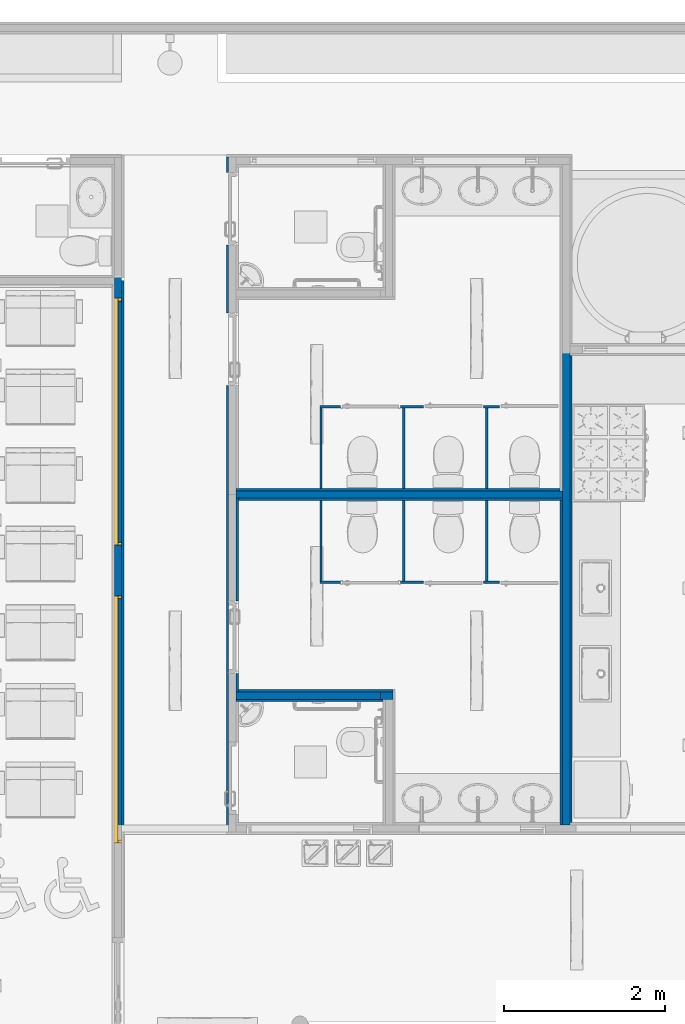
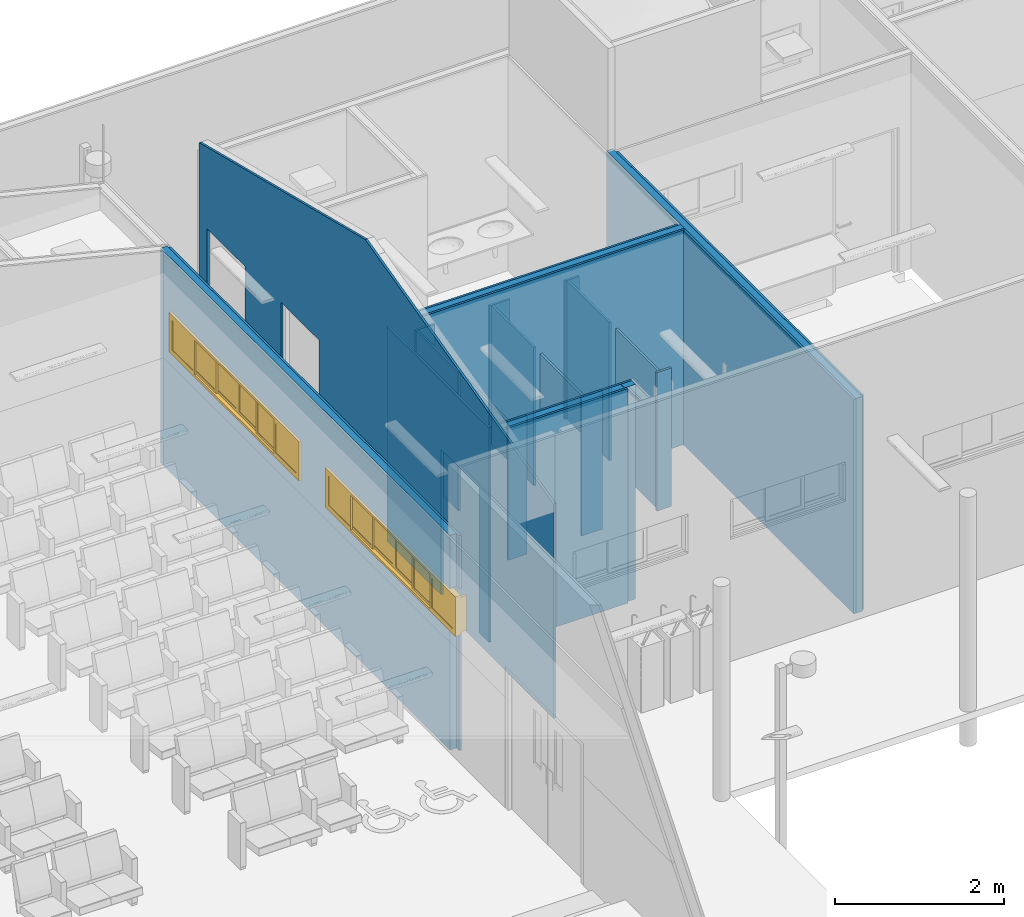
# One storey, part 30 of 155: 26 walls, 2 windows, 7 openings.
"""IFC2X3 building model written with IfcOpenShell, lengths in metres."""

from ifc_helpers import new_model, entity, si_unit, converted_unit, derived_unit, direction, frame, frame_2d, origin, origin_2d_with_axis, place, context, subcontext, project, spatial, polyline, rectangle, outline, extrude, clip, bounded_halfspace, source, transform, mapped, material, material_list, layer, layer_set, layer_usage, type_object, type_shapes, element, fill, save


model = new_model("IFC2X3")

# Units and contexts
model_context = context("Model", 3, precision=1e-05, world=origin(), true_north=direction((6.12303176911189e-17, 1.0)))
body_context = subcontext(model_context, "Body", "Model", "MODEL_VIEW")
ifc_project = project(units=[si_unit("LENGTHUNIT", "METRE"), si_unit("AREAUNIT", "SQUARE_METRE"), si_unit("VOLUMEUNIT", "CUBIC_METRE"), converted_unit("PLANEANGLEUNIT", "DEGREE", entity("IfcRatioMeasure", 0.0174532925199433), si_unit("PLANEANGLEUNIT", "RADIAN"), dimensions=[0, 0, 0, 0, 0, 0, 0]), si_unit("MASSUNIT", "GRAM", prefix="KILO"), derived_unit("MASSDENSITYUNIT", [(si_unit("MASSUNIT", "GRAM", prefix="KILO"), 1), (si_unit("LENGTHUNIT", "METRE"), -3)]), si_unit("TIMEUNIT", "SECOND"), si_unit("FREQUENCYUNIT", "HERTZ"), si_unit("THERMODYNAMICTEMPERATUREUNIT", "DEGREE_CELSIUS"), derived_unit("THERMALTRANSMITTANCEUNIT", [(si_unit("MASSUNIT", "GRAM", prefix="KILO"), 1), (si_unit("THERMODYNAMICTEMPERATUREUNIT", "KELVIN"), -1), (si_unit("TIMEUNIT", "SECOND"), -3)]), derived_unit("VOLUMETRICFLOWRATEUNIT", [(si_unit("LENGTHUNIT", "METRE"), 3), (si_unit("TIMEUNIT", "SECOND"), -1)]), si_unit("ELECTRICCURRENTUNIT", "AMPERE"), si_unit("ELECTRICVOLTAGEUNIT", "VOLT"), si_unit("POWERUNIT", "WATT"), si_unit("FORCEUNIT", "NEWTON", prefix="KILO"), si_unit("ILLUMINANCEUNIT", "LUX"), si_unit("LUMINOUSFLUXUNIT", "LUMEN"), si_unit("LUMINOUSINTENSITYUNIT", "CANDELA"), derived_unit("USERDEFINED", [(si_unit("MASSUNIT", "GRAM", prefix="KILO"), -1), (si_unit("LENGTHUNIT", "METRE"), -2), (si_unit("TIMEUNIT", "SECOND"), 3), (si_unit("LUMINOUSFLUXUNIT", "LUMEN"), 1)]), derived_unit("LINEARVELOCITYUNIT", [(si_unit("LENGTHUNIT", "METRE"), 1), (si_unit("TIMEUNIT", "SECOND"), -1)]), si_unit("PRESSUREUNIT", "PASCAL"), derived_unit("USERDEFINED", [(si_unit("LENGTHUNIT", "METRE"), -2), (si_unit("MASSUNIT", "GRAM", prefix="KILO"), 1), (si_unit("TIMEUNIT", "SECOND"), -2)])], contexts=[model_context])

# Site, building, storey
site_placement = place(None, frame((26.9889013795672, -17.5624287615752, 0.0)))
site = spatial("IfcSite", under=ifc_project, at=site_placement, Name="Default", CompositionType="ELEMENT")
building_placement = place(site_placement, origin())
building = spatial("IfcBuilding", under=site, at=building_placement, Name="C. C. L. Monsenhor Antônio Sampaio", CompositionType="ELEMENT")
storey_placement = place(building_placement, frame((0.0, 0.0, 1.19999999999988)))
storey = spatial("IfcBuildingStorey", under=building, at=storey_placement, Name="Nível 1.2", CompositionType="ELEMENT", Elevation=1.19999999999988)

# Walls
ifc_material_1 = material(Name="ALVENARIA")
ifc_layer_1 = layer(ifc_material_1, 0.09)
ifc_layer_set_1 = layer_set([ifc_layer_1], Name="Parede básica:ENucleo parede 15cm")
ifc_layer_usage_1 = layer_usage(ifc_layer_set_1, "AXIS2", "NEGATIVE", 0.045)
wall_type_1 = type_object("IfcWallType", Name="Parede básica:ENucleo parede 15cm", PredefinedType="STANDARD", material=ifc_layer_set_1)
wall_1_placement = place(storey_placement, frame((-0.390552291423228, -12.6780663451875, 0.0), z_axis=(0.0, 0.0, 1.0), x_axis=(-1.0, 0.0, 0.0)))
element("IfcWallStandardCase", 1, at=wall_1_placement, inside=storey, type_object=wall_type_1, material=ifc_layer_usage_1, Name="Parede básica:ENucleo parede 15cm", ObjectType="Parede básica:ENucleo parede 15cm", context=body_context, shape_type="SweptSolid", body=[
    extrude(rectangle(XDim=4.06000000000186, YDim=0.0900000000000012, at=frame_2d((2.03000000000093, 0.0), x_axis=(-1.0, 0.0))), origin(), (0.0, 0.0, 1.0), 3.10000000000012),
])
ifc_layer_usage_2 = layer_usage(ifc_layer_set_1, "AXIS2", "POSITIVE", -0.045)
wall_2_placement = place(storey_placement, frame((-4.45055229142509, -15.1780663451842, 0.0)))
element("IfcWallStandardCase", 2, at=wall_2_placement, inside=storey, type_object=wall_type_1, material=ifc_layer_usage_2, Name="Parede básica:ENucleo parede 15cm", ObjectType="Parede básica:ENucleo parede 15cm", context=body_context, shape_type="SweptSolid", body=[
    extrude(rectangle(XDim=1.79999999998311, YDim=0.0900000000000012, at=frame_2d((0.899999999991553, 0.0), x_axis=(-1.0, 0.0))), origin(), (0.0, 0.0, 1.0), 3.10000000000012),
])
ifc_layer_usage_3 = layer_usage(ifc_layer_set_1, "AXIS2", "NEGATIVE", 0.045)
wall_3_placement = place(storey_placement, frame((-2.50054691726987, -15.1780663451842, 0.0), z_axis=(0.0, 0.0, 1.0), x_axis=(-1.0, 0.0, 0.0)))
element("IfcWallStandardCase", 3, at=wall_3_placement, inside=storey, type_object=wall_type_1, material=ifc_layer_usage_3, Name="Parede básica:ENucleo parede 15cm", ObjectType="Parede básica:ENucleo parede 15cm", context=body_context, shape_type="SweptSolid", body=[
    extrude(rectangle(XDim=0.150005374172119, YDim=0.0900000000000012, at=frame_2d((0.0750026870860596, 0.0), x_axis=(-1.0, 0.0))), origin(), (0.0, 0.0, 1.0), 3.10000000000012),
])

# Wall, openings, windows
ifc_layer_usage_4 = layer_usage(ifc_layer_set_1, "AXIS2", "NEGATIVE", 0.045)
wall_4_placement = place(storey_placement, frame((-5.91555229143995, -16.8280663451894, 0.0), z_axis=(0.0, 0.0, 1.0), x_axis=(0.0, 1.0, 0.0)))
wall_4 = element("IfcWallStandardCase", 4, at=wall_4_placement, inside=storey, type_object=wall_type_1, material=ifc_layer_usage_4, Name="Parede básica:ENucleo parede 15cm", ObjectType="Parede básica:ENucleo parede 15cm", context=body_context, shape_type="SweptSolid", body=[
    extrude(rectangle(XDim=6.84500000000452, YDim=0.089999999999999, at=frame_2d((3.42250000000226, 2.42861286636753e-17), x_axis=(-1.0, 0.0))), origin(), (0.0, 0.0, 1.0), 3.10000000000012),
])
opening_1_placement = place(wall_4_placement, frame((6.59000000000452, 0.0449999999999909, 1.76500000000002)))
opening_1 = element("IfcOpeningElement", 5, at=opening_1_placement, cuts=wall_4, Name="Janela 300x110:300 x 50:1", ObjectType="Opening", context=body_context, shape_type="SweptSolid", body=[
    extrude(rectangle(XDim=0.569999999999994, YDim=3.06999999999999, at=frame_2d((0.284999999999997, 1.535), x_axis=(1.0, 0.0))), frame((0.0, 0.0, 0.0), z_axis=(0.0, -1.0, 0.0), x_axis=(0.0, 0.0, 1.0)), (0.0, 0.0, 1.0), 0.09),
])
opening_2_placement = place(wall_4_placement, frame((2.89000000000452, 0.0449999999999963, 1.76500000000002)))
opening_2 = element("IfcOpeningElement", 6, at=opening_2_placement, cuts=wall_4, Name="Janela 300x110:300 x 50:1", ObjectType="Opening", context=body_context, shape_type="SweptSolid", body=[
    extrude(rectangle(XDim=0.569999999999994, YDim=3.06999999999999, at=frame_2d((0.284999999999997, 1.535), x_axis=(1.0, 0.0))), frame((0.0, 0.0, 0.0), z_axis=(0.0, -1.0, 0.0), x_axis=(0.0, 0.0, 1.0)), (0.0, 0.0, 1.0), 0.09),
])
ifc_material_2 = material(Name="VIDRO COMUM LISO VERDE")
ifc_material_3 = material(Name="ALUMÍNIO COM PINTURA ELETROSTÁTICA BRANCA")
ifc_material_list_1 = material_list([ifc_material_2, ifc_material_3])
ifc_material_list_2 = material_list([ifc_material_2, ifc_material_3])
window_style = type_object("IfcWindowStyle", Name="300 x 50", ConstructionType="NOTDEFINED", OperationType="NOTDEFINED", ParameterTakesPrecedence=False, Sizeable=False, material=ifc_material_list_2)
shared_shape = source(origin(), body_context, "Body", "SweptSolid", [
    extrude(rectangle(XDim=0.49, YDim=0.00599999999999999, at=origin_2d_with_axis()), frame((1.255, 0.0324999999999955, 0.0699999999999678), z_axis=(0.0, 0.0, 1.0), x_axis=(-1.0, 0.0, 0.0)), (0.0, 0.0, 1.0), 0.43),
    extrude(outline(polyline([(-0.250000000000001, -0.28), (0.250000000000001, -0.28), (0.250000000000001, 0.28), (-0.250000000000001, 0.28), (-0.250000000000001, -0.28)]), holes=[polyline([(-0.215000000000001, -0.245), (-0.215000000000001, 0.245), (0.215000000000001, 0.245), (0.215000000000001, -0.245), (-0.215000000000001, -0.245)])]), frame((1.255, 0.0199999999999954, 0.284999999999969), z_axis=(0.0, 1.0, 0.0), x_axis=(0.0, 0.0, -1.0)), (0.0, 0.0, 1.0), 0.025),
    extrude(rectangle(XDim=0.49, YDim=0.00599999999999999, at=frame_2d((-1.38777878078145e-16, 0.0), x_axis=(1.0, 0.0))), frame((0.314999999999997, -0.0175, 0.0699999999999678), z_axis=(0.0, 0.0, 1.0), x_axis=(-1.0, 0.0, 0.0)), (0.0, 0.0, 1.0), 0.43),
    extrude(outline(polyline([(-0.250000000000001, -0.28), (0.250000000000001, -0.28), (0.250000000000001, 0.28), (-0.250000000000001, 0.28), (-0.250000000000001, -0.28)]), holes=[polyline([(-0.215000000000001, -0.245), (-0.215000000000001, 0.245), (0.215000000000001, 0.245), (0.215000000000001, -0.245), (-0.215000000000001, -0.245)])]), frame((0.314999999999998, -0.0300000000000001, 0.284999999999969), z_axis=(0.0, 1.0, 0.0), x_axis=(0.0, 0.0, -1.0)), (0.0, 0.0, 1.0), 0.025),
    extrude(rectangle(XDim=0.49, YDim=0.00599999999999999, at=origin_2d_with_axis()), frame((0.784403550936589, 0.00749999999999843, 0.0699999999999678), z_axis=(0.0, 0.0, 1.0), x_axis=(-1.0, 0.0, 0.0)), (0.0, 0.0, 1.0), 0.43),
    extrude(outline(polyline([(-0.250000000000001, -0.28), (0.250000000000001, -0.28), (0.250000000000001, 0.28), (-0.250000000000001, 0.28), (-0.250000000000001, -0.28)]), holes=[polyline([(-0.215000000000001, -0.245), (-0.215000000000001, 0.245), (0.215000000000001, 0.245), (0.215000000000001, -0.245), (-0.215000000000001, -0.245)])]), frame((0.784403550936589, -0.00500000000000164, 0.284999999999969), z_axis=(0.0, 1.0, 0.0), x_axis=(0.0, 0.0, -1.0)), (0.0, 0.0, 1.0), 0.025),
    extrude(rectangle(XDim=0.00599999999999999, YDim=0.49, at=origin_2d_with_axis()), frame((1.81499999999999, 0.0324999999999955, 0.0699999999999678), z_axis=(0.0, 0.0, 1.0), x_axis=(0.0, -1.0, 0.0)), (0.0, 0.0, 1.0), 0.43),
    extrude(outline(polyline([(-0.28, -0.250000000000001), (0.28, -0.250000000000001), (0.28, 0.250000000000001), (-0.28, 0.250000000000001), (-0.28, -0.250000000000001)]), holes=[polyline([(-0.245, -0.215000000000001), (-0.245, 0.215000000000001), (0.245, 0.215000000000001), (0.245, -0.215000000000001), (-0.245, -0.215000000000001)])]), frame((1.81499999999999, 0.0199999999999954, 0.284999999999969), z_axis=(0.0, 1.0, 0.0), x_axis=(1.0, 0.0, 0.0)), (0.0, 0.0, 1.0), 0.025),
    extrude(rectangle(XDim=0.00599999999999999, YDim=0.49, at=frame_2d((0.0, 1.38777878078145e-16), x_axis=(1.0, 0.0))), frame((2.75499999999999, -0.0175, 0.0699999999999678), z_axis=(0.0, 0.0, 1.0), x_axis=(0.0, -1.0, 0.0)), (0.0, 0.0, 1.0), 0.43),
    extrude(outline(polyline([(-0.28, -0.250000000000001), (0.28, -0.250000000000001), (0.28, 0.250000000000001), (-0.28, 0.250000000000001), (-0.28, -0.250000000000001)]), holes=[polyline([(-0.245, -0.215000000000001), (-0.245, 0.215000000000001), (0.245, 0.215000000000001), (0.245, -0.215000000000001), (-0.245, -0.215000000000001)])]), frame((2.75499999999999, -0.0300000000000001, 0.284999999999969), z_axis=(0.0, 1.0, 0.0), x_axis=(1.0, 0.0, 0.0)), (0.0, 0.0, 1.0), 0.025),
    extrude(rectangle(XDim=0.00599999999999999, YDim=0.49, at=origin_2d_with_axis()), frame((2.2855964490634, 0.00749999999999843, 0.0699999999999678), z_axis=(0.0, 0.0, 1.0), x_axis=(0.0, -1.0, 0.0)), (0.0, 0.0, 1.0), 0.43),
    extrude(outline(polyline([(-0.28, -0.250000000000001), (0.28, -0.250000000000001), (0.28, 0.250000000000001), (-0.28, 0.250000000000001), (-0.28, -0.250000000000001)]), holes=[polyline([(-0.245, -0.215000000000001), (-0.245, 0.215000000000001), (0.245, 0.215000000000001), (0.245, -0.215000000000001), (-0.245, -0.215000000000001)])]), frame((2.2855964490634, -0.00500000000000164, 0.284999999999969), z_axis=(0.0, 1.0, 0.0), x_axis=(1.0, 0.0, 0.0)), (0.0, 0.0, 1.0), 0.025),
    extrude(rectangle(XDim=0.075, YDim=3.07, at=origin_2d_with_axis()), frame((1.535, 0.0075, 0.0), z_axis=(0.0, 0.0, 1.0), x_axis=(0.0, -1.0, 0.0)), (0.0, 0.0, 1.0), 0.0349999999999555),
    extrude(rectangle(XDim=0.15, YDim=0.0349999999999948, at=origin_2d_with_axis()), frame((3.05249999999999, 0.045, 0.0349999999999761), z_axis=(0.0, 0.0, 1.0), x_axis=(0.0, -1.0, 0.0)), (0.0, 0.0, 1.0), 0.500000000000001),
    extrude(rectangle(XDim=0.15, YDim=0.0349999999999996, at=origin_2d_with_axis()), frame((0.0174999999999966, 0.045, 0.0349999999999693), z_axis=(0.0, 0.0, 1.0), x_axis=(0.0, -1.0, 0.0)), (0.0, 0.0, 1.0), 0.500000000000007),
    extrude(rectangle(XDim=0.075, YDim=3.06999999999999, at=frame_2d((3.46944695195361e-18, 0.0), x_axis=(1.0, 0.0))), frame((1.535, 0.0075, 0.534999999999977), z_axis=(0.0, 0.0, 1.0), x_axis=(0.0, -1.0, 0.0)), (0.0, 0.0, 1.0), 0.0350000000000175),
])
type_shapes(window_style, [shared_shape])
window_1_placement = place(opening_1_placement, frame((0.0, 0.0, 0.0), z_axis=(0.0, 0.0, 1.0), x_axis=(-1.0, 0.0, 0.0)))
window_1 = element("IfcWindow", 7, at=window_1_placement, inside=storey, type_object=window_style, material=ifc_material_list_1, Name="Janela 300x110:300 x 50", ObjectType="300 x 50", OverallHeight=0.569999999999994, OverallWidth=3.07, context=body_context, shape_type="MappedRepresentation", body=[
    mapped(shared_shape, transform((0.0, 0.0, 0.0), scale=1.0)),
])
fill(opening_1, window_1)
ifc_material_list_3 = material_list([ifc_material_2, ifc_material_3])
window_2_placement = place(opening_2_placement, frame((0.0, 0.0, 0.0), z_axis=(0.0, 0.0, 1.0), x_axis=(-1.0, 0.0, 0.0)))
window_2 = element("IfcWindow", 8, at=window_2_placement, inside=storey, type_object=window_style, material=ifc_material_list_3, Name="Janela 300x110:300 x 50", ObjectType="300 x 50", OverallHeight=0.569999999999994, OverallWidth=3.07, context=body_context, shape_type="MappedRepresentation", body=[
    mapped(shared_shape, transform((0.0, 0.0, 0.0), scale=1.0)),
])
fill(opening_2, window_2)

# Walls
ifc_layer_usage_5 = layer_usage(ifc_layer_set_1, "AXIS2", "NEGATIVE", 0.045)
wall_5_placement = place(storey_placement, frame((-0.345552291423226, -10.8780663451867, 0.0), z_axis=(0.0, 0.0, 1.0), x_axis=(0.0, -1.0, 0.0)))
element("IfcWallStandardCase", 9, at=wall_5_placement, inside=storey, type_object=wall_type_1, material=ifc_layer_usage_5, Name="Parede básica:ENucleo parede 15cm", ObjectType="Parede básica:ENucleo parede 15cm", context=body_context, shape_type="SweptSolid", body=[
    extrude(rectangle(XDim=5.90500000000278, YDim=0.09, at=frame_2d((2.95250000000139, -3.46944695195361e-18), x_axis=(-1.0, 0.0))), origin(), (0.0, 0.0, 1.0), 3.10000000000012),
])
ifc_material_4 = material(Name=".CERÂMICA 10x10 BRANCA")
ifc_layer_2 = layer(ifc_material_4, 0.0035)
ifc_material_5 = material(Name="Argamassa Colante")
ifc_layer_3 = layer(ifc_material_5, 0.02)
ifc_material_6 = material(Name="4")
ifc_layer_4 = layer(ifc_material_6, 0.0015)
ifc_material_7 = material(Name="3")
ifc_layer_5 = layer(ifc_material_7, 0.005)
ifc_layer_set_2 = layer_set([ifc_layer_2, ifc_layer_3, ifc_layer_4, ifc_layer_5], Name="Parede básica:ECeramica branca 10x10cm")
ifc_layer_usage_6 = layer_usage(ifc_layer_set_2, "AXIS2", "POSITIVE", -0.015)
wall_type_2 = type_object("IfcWallType", Name="Parede básica:ECeramica branca 10x10cm", PredefinedType="STANDARD", material=ifc_layer_set_2)
wall_6_placement = place(storey_placement, frame((-0.420552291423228, -12.6180663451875, 0.0), z_axis=(0.0, 0.0, 1.0), x_axis=(-1.0, 0.0, 0.0)))
element("IfcWallStandardCase", 10, at=wall_6_placement, inside=storey, type_object=wall_type_2, material=ifc_layer_usage_6, Name="Parede básica:ECeramica branca 10x10cm", ObjectType="Parede básica:ECeramica branca 10x10cm", context=body_context, shape_type="SweptSolid", body=[
    extrude(rectangle(XDim=4.03000000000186, YDim=0.0300000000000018, at=frame_2d((2.01500000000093, 0.0), x_axis=(-1.0, 0.0))), origin(), (0.0, 0.0, 1.0), 3.10000000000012),
])
ifc_layer_usage_7 = layer_usage(ifc_layer_set_2, "AXIS2", "POSITIVE", -0.015)
wall_7_placement = place(storey_placement, frame((-4.45055229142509, -15.2380663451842, 0.0)))
element("IfcWallStandardCase", 11, at=wall_7_placement, inside=storey, type_object=wall_type_2, material=ifc_layer_usage_7, Name="Parede básica:ECeramica branca 10x10cm", ObjectType="Parede básica:ECeramica branca 10x10cm", context=body_context, shape_type="SweptSolid", body=[
    extrude(rectangle(XDim=1.83000537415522, YDim=0.0300000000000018, at=frame_2d((0.915002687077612, 0.0), x_axis=(-1.0, 0.0))), origin(), (0.0, 0.0, 1.0), 3.10000000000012),
])

# Wall, opening
ifc_layer_usage_8 = layer_usage(ifc_layer_set_2, "AXIS2", "NEGATIVE", 0.015)
wall_8_placement = place(storey_placement, frame((-4.43555229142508, -12.7230663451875, 0.0), z_axis=(0.0, 0.0, 1.0), x_axis=(0.0, -1.0, 0.0)))
wall_8 = element("IfcWallStandardCase", 12, at=wall_8_placement, inside=storey, type_object=wall_type_2, material=ifc_layer_usage_8, Name="Parede básica:ECeramica branca 10x10cm", ObjectType="Parede básica:ECeramica branca 10x10cm", context=body_context, shape_type="SweptSolid", body=[
    extrude(rectangle(XDim=2.40999999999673, YDim=0.0299999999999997, at=frame_2d((1.20499999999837, 0.0), x_axis=(-1.0, 0.0))), origin(), (0.0, 0.0, 1.0), 3.10000000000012),
])
opening_3_placement = place(wall_8_placement, origin())
element("IfcOpeningElement", 13, at=opening_3_placement, cuts=wall_8, Name="Parede básica:ECeramica branca 10x10cm", ObjectType="Opening", context=body_context, shape_type="SweptSolid", body=[
    extrude(rectangle(XDim=2.09999999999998, YDim=0.900000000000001, at=frame_2d((1.08246744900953e-15, 0.0), x_axis=(0.0, 1.0))), frame((1.72999999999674, -1.539, 1.04999999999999), z_axis=(0.0, 1.0, 0.0), x_axis=(-1.0, 0.0, 0.0)), (0.0, 0.0, 1.0), 3.048),
])

# Walls
ifc_layer_usage_9 = layer_usage(ifc_layer_set_2, "AXIS2", "NEGATIVE", 0.015)
wall_9_placement = place(storey_placement, frame((-4.42055229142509, -15.1180663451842, 0.0)))
element("IfcWallStandardCase", 14, at=wall_9_placement, inside=storey, type_object=wall_type_2, material=ifc_layer_usage_9, Name="Parede básica:ECeramica branca 10x10cm", ObjectType="Parede básica:ECeramica branca 10x10cm", context=body_context, shape_type="SweptSolid", body=[
    extrude(rectangle(XDim=1.92000537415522, YDim=0.0300000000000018, at=frame_2d((0.960002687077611, 0.0), x_axis=(-1.0, 0.0))), origin(), (0.0, 0.0, 1.0), 3.10000000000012),
])
ifc_layer_usage_10 = layer_usage(ifc_layer_set_2, "AXIS2", "POSITIVE", -0.015)
wall_10_placement = place(storey_placement, frame((-4.42055229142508, -12.7380663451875, 0.0)))
element("IfcWallStandardCase", 15, at=wall_10_placement, inside=storey, type_object=wall_type_2, material=ifc_layer_usage_10, Name="Parede básica:ECeramica branca 10x10cm", ObjectType="Parede básica:ECeramica branca 10x10cm", context=body_context, shape_type="SweptSolid", body=[
    extrude(rectangle(XDim=4.03000000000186, YDim=0.0300000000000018, at=frame_2d((2.01500000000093, 0.0), x_axis=(-1.0, 0.0))), origin(), (0.0, 0.0, 1.0), 3.10000000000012),
])
ifc_layer_usage_11 = layer_usage(ifc_layer_set_2, "AXIS2", "POSITIVE", -0.015)
wall_11_placement = place(storey_placement, frame((-0.405552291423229, -12.7530663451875, 0.0), z_axis=(0.0, 0.0, 1.0), x_axis=(0.0, -1.0, 0.0)))
element("IfcWallStandardCase", 16, at=wall_11_placement, inside=storey, type_object=wall_type_2, material=ifc_layer_usage_11, Name="Parede básica:ECeramica branca 10x10cm", ObjectType="Parede básica:ECeramica branca 10x10cm", context=body_context, shape_type="SweptSolid", body=[
    extrude(rectangle(XDim=4.03000000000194, YDim=0.0299999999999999, at=frame_2d((2.01500000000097, 0.0), x_axis=(-1.0, 0.0))), origin(), (0.0, 0.0, 1.0), 3.10000000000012),
])
ifc_layer_usage_12 = layer_usage(ifc_layer_set_2, "AXIS2", "POSITIVE", -0.015)
wall_12_placement = place(storey_placement, frame((-0.285552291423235, -16.7530663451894, 0.0), z_axis=(0.0, 0.0, 1.0), x_axis=(0.0, 1.0, 0.0)))
element("IfcWallStandardCase", 17, at=wall_12_placement, inside=storey, type_object=wall_type_2, material=ifc_layer_usage_12, Name="Parede básica:ECeramica branca 10x10cm", ObjectType="Parede básica:ECeramica branca 10x10cm", context=body_context, shape_type="SweptSolid", body=[
    extrude(rectangle(XDim=5.80000000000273, YDim=0.03, at=frame_2d((2.90000000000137, 0.0), x_axis=(-1.0, 0.0))), origin(), (0.0, 0.0, 1.0), 3.10000000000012),
])
ifc_layer_usage_13 = layer_usage(ifc_layer_set_2, "AXIS2", "NEGATIVE", 0.015)
wall_13_placement = place(storey_placement, frame((-3.39315075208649, -11.6030663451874, 0.0), z_axis=(0.0, 0.0, 1.0), x_axis=(0.0, -1.0, 0.0)))
element("IfcWallStandardCase", 18, at=wall_13_placement, inside=storey, type_object=wall_type_2, material=ifc_layer_usage_13, Name="Parede básica:ECeramica branca 10x10cm", ObjectType="Parede básica:ECeramica branca 10x10cm", context=body_context, shape_type="SweptSolid", body=[
    extrude(rectangle(XDim=1.00000000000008, YDim=0.0299999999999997, at=frame_2d((0.500000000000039, 8.41340885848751e-17), x_axis=(-1.0, 0.0))), origin(), (0.0, 0.0, 1.0), 2.0),
])
ifc_layer_usage_14 = layer_usage(ifc_layer_set_2, "AXIS2", "NEGATIVE", 0.015)
wall_14_placement = place(storey_placement, frame((-2.36315075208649, -11.6030663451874, 0.0), z_axis=(0.0, 0.0, 1.0), x_axis=(0.0, -1.0, 0.0)))
element("IfcWallStandardCase", 19, at=wall_14_placement, inside=storey, type_object=wall_type_2, material=ifc_layer_usage_14, Name="Parede básica:ECeramica branca 10x10cm", ObjectType="Parede básica:ECeramica branca 10x10cm", context=body_context, shape_type="SweptSolid", body=[
    extrude(rectangle(XDim=1.00000000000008, YDim=0.0300000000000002, at=frame_2d((0.500000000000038, -5.11743425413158e-17), x_axis=(-1.0, 0.0))), origin(), (0.0, 0.0, 1.0), 2.0),
])
ifc_layer_usage_15 = layer_usage(ifc_layer_set_2, "AXIS2", "NEGATIVE", 0.015)
wall_15_placement = place(storey_placement, frame((-1.33315075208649, -11.6030663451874, 0.0), z_axis=(0.0, 0.0, 1.0), x_axis=(0.0, -1.0, 0.0)))
element("IfcWallStandardCase", 20, at=wall_15_placement, inside=storey, type_object=wall_type_2, material=ifc_layer_usage_15, Name="Parede básica:ECeramica branca 10x10cm", ObjectType="Parede básica:ECeramica branca 10x10cm", context=body_context, shape_type="SweptSolid", body=[
    extrude(rectangle(XDim=1.00000000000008, YDim=0.0300000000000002, at=frame_2d((0.500000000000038, -2.77555756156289e-17), x_axis=(-1.0, 0.0))), origin(), (0.0, 0.0, 1.0), 2.0),
])
ifc_layer_usage_16 = layer_usage(ifc_layer_set_2, "AXIS2", "POSITIVE", -0.015)
wall_16_placement = place(storey_placement, frame((-3.40815075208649, -11.5880663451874, 0.0)))
element("IfcWallStandardCase", 21, at=wall_16_placement, inside=storey, type_object=wall_type_2, material=ifc_layer_usage_16, Name="Parede básica:ECeramica branca 10x10cm", ObjectType="Parede básica:ECeramica branca 10x10cm", context=body_context, shape_type="SweptSolid", body=[
    extrude(rectangle(XDim=0.257598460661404, YDim=0.0300000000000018, at=frame_2d((0.128799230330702, -5.80265002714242e-16), x_axis=(-1.0, 0.0))), origin(), (0.0, 0.0, 1.0), 2.0),
])
ifc_layer_usage_17 = layer_usage(ifc_layer_set_2, "AXIS2", "POSITIVE", -0.015)
wall_17_placement = place(storey_placement, frame((-2.40555229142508, -11.5880663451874, 0.0)))
element("IfcWallStandardCase", 22, at=wall_17_placement, inside=storey, type_object=wall_type_2, material=ifc_layer_usage_17, Name="Parede básica:ECeramica branca 10x10cm", ObjectType="Parede básica:ECeramica branca 10x10cm", context=body_context, shape_type="SweptSolid", body=[
    extrude(rectangle(XDim=0.285, YDim=0.0300000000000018, at=frame_2d((0.1425, 5.56846235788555e-16), x_axis=(-1.0, 0.0))), origin(), (0.0, 0.0, 1.0), 2.0),
])
ifc_layer_usage_18 = layer_usage(ifc_layer_set_2, "AXIS2", "POSITIVE", -0.015)
wall_18_placement = place(storey_placement, frame((-1.37555229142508, -11.5880663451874, 0.0)))
element("IfcWallStandardCase", 23, at=wall_18_placement, inside=storey, type_object=wall_type_2, material=ifc_layer_usage_18, Name="Parede básica:ECeramica branca 10x10cm", ObjectType="Parede básica:ECeramica branca 10x10cm", context=body_context, shape_type="SweptSolid", body=[
    extrude(rectangle(XDim=0.2, YDim=0.0300000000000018, at=frame_2d((0.1, 3.9118014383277e-16), x_axis=(-1.0, 0.0))), origin(), (0.0, 0.0, 1.0), 2.0),
])
ifc_layer_usage_19 = layer_usage(ifc_layer_set_2, "AXIS2", "POSITIVE", -0.015)
wall_19_placement = place(storey_placement, frame((-3.39315075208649, -13.7530663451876, 0.0), z_axis=(0.0, 0.0, 1.0), x_axis=(0.0, 1.0, 0.0)))
element("IfcWallStandardCase", 24, at=wall_19_placement, inside=storey, type_object=wall_type_2, material=ifc_layer_usage_19, Name="Parede básica:ECeramica branca 10x10cm", ObjectType="Parede básica:ECeramica branca 10x10cm", context=body_context, shape_type="SweptSolid", body=[
    extrude(rectangle(XDim=1.00000000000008, YDim=0.0299999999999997, at=frame_2d((0.500000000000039, 0.0), x_axis=(-1.0, 0.0))), origin(), (0.0, 0.0, 1.0), 2.0),
])
ifc_layer_usage_20 = layer_usage(ifc_layer_set_2, "AXIS2", "POSITIVE", -0.015)
wall_20_placement = place(storey_placement, frame((-2.36315075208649, -13.7530663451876, 0.0), z_axis=(0.0, 0.0, 1.0), x_axis=(0.0, 1.0, 0.0)))
element("IfcWallStandardCase", 25, at=wall_20_placement, inside=storey, type_object=wall_type_2, material=ifc_layer_usage_20, Name="Parede básica:ECeramica branca 10x10cm", ObjectType="Parede básica:ECeramica branca 10x10cm", context=body_context, shape_type="SweptSolid", body=[
    extrude(rectangle(XDim=1.00000000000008, YDim=0.0300000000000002, at=frame_2d((0.500000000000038, 0.0), x_axis=(-1.0, 0.0))), origin(), (0.0, 0.0, 1.0), 2.0),
])
ifc_layer_usage_21 = layer_usage(ifc_layer_set_2, "AXIS2", "POSITIVE", -0.015)
wall_21_placement = place(storey_placement, frame((-1.33315075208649, -13.7530663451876, 0.0), z_axis=(0.0, 0.0, 1.0), x_axis=(0.0, 1.0, 0.0)))
element("IfcWallStandardCase", 26, at=wall_21_placement, inside=storey, type_object=wall_type_2, material=ifc_layer_usage_21, Name="Parede básica:ECeramica branca 10x10cm", ObjectType="Parede básica:ECeramica branca 10x10cm", context=body_context, shape_type="SweptSolid", body=[
    extrude(rectangle(XDim=1.00000000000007, YDim=0.0300000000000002, at=frame_2d((0.500000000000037, -2.25514051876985e-17), x_axis=(-1.0, 0.0))), origin(), (0.0, 0.0, 1.0), 2.0),
])
ifc_layer_usage_22 = layer_usage(ifc_layer_set_2, "AXIS2", "NEGATIVE", 0.015)
wall_22_placement = place(storey_placement, frame((-2.40553433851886, -13.7680663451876, 0.0)))
element("IfcWallStandardCase", 27, at=wall_22_placement, inside=storey, type_object=wall_type_2, material=ifc_layer_usage_22, Name="Parede básica:ECeramica branca 10x10cm", ObjectType="Parede básica:ECeramica branca 10x10cm", context=body_context, shape_type="SweptSolid", body=[
    extrude(rectangle(XDim=0.285, YDim=0.0300000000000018, at=frame_2d((0.1425, 3.1485231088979e-16), x_axis=(-1.0, 0.0))), origin(), (0.0, 0.0, 1.0), 2.0),
])
ifc_layer_usage_23 = layer_usage(ifc_layer_set_2, "AXIS2", "NEGATIVE", 0.015)
wall_23_placement = place(storey_placement, frame((-1.37553433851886, -13.7680663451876, 0.0)))
element("IfcWallStandardCase", 28, at=wall_23_placement, inside=storey, type_object=wall_type_2, material=ifc_layer_usage_23, Name="Parede básica:ECeramica branca 10x10cm", ObjectType="Parede básica:ECeramica branca 10x10cm", context=body_context, shape_type="SweptSolid", body=[
    extrude(rectangle(XDim=0.2, YDim=0.0300000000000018, at=frame_2d((0.1, 2.20309881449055e-16), x_axis=(-1.0, 0.0))), origin(), (0.0, 0.0, 1.0), 2.0),
])
ifc_layer_usage_24 = layer_usage(ifc_layer_set_2, "AXIS2", "NEGATIVE", 0.015)
wall_24_placement = place(storey_placement, frame((-3.40815075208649, -13.7680663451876, 0.0)))
element("IfcWallStandardCase", 29, at=wall_24_placement, inside=storey, type_object=wall_type_2, material=ifc_layer_usage_24, Name="Parede básica:ECeramica branca 10x10cm", ObjectType="Parede básica:ECeramica branca 10x10cm", context=body_context, shape_type="SweptSolid", body=[
    extrude(rectangle(XDim=0.257616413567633, YDim=0.0300000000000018, at=frame_2d((0.128808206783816, 2.85362011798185e-16), x_axis=(-1.0, 0.0))), origin(), (0.0, 0.0, 1.0), 2.0),
])

# Wall, openings
ifc_material_8 = material(Name="Acabamento amarelo")
ifc_layer_6 = layer(ifc_material_8, 0.0035)
ifc_material_9 = material(Name="Massa corrida")
ifc_layer_7 = layer(ifc_material_9, 0.02)
ifc_layer_8 = layer(ifc_material_6, 0.0015)
ifc_layer_9 = layer(ifc_material_7, 0.005)
ifc_layer_set_3 = layer_set([ifc_layer_6, ifc_layer_7, ifc_layer_8, ifc_layer_9], Name="Parede básica:EPintura amarela")
ifc_layer_usage_25 = layer_usage(ifc_layer_set_3, "AXIS2", "POSITIVE", -0.015)
wall_type_3 = type_object("IfcWallType", Name="Parede básica:EPintura amarela", PredefinedType="STANDARD", material=ifc_layer_set_3)
wall_25_placement = place(storey_placement, frame((-4.55555229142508, -8.48439236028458, 0.0), z_axis=(0.0, 0.0, 1.0), x_axis=(0.0, -1.0, 0.0)))
wall_25 = element("IfcWallStandardCase", 30, at=wall_25_placement, inside=storey, type_object=wall_type_3, material=ifc_layer_usage_25, Name="Parede básica:EPintura amarela", ObjectType="Parede básica:EPintura amarela", context=body_context, shape_type="Clipping", body=[
    clip(clip(extrude(rectangle(XDim=8.38867398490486, YDim=0.0299999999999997, at=frame_2d((4.19433699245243, 0.0), x_axis=(-1.0, 0.0))), origin(), (0.0, 0.0, 1.0), 4.21182764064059), bounded_halfspace(frame((0.0, 0.015, 3.22965914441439), z_axis=(-0.242535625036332, 0.0, 0.970142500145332), x_axis=(0.0, -1.0, 0.0)), False, frame((0.0, 0.015, 3.22965914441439)), polyline([(0.0, 0.0), (0.0, -0.0300000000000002), (3.92867398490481, -0.0300000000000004), (3.92867398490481, 0.0), (0.0, 0.0)]))), bounded_halfspace(frame((8.38867398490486, -0.0150000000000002, 3.09682764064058), z_axis=(0.242535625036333, 0.0, 0.970142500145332), x_axis=(0.0, 1.0, 0.0)), False, frame((8.38867398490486, -0.0150000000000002, 3.09682764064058)), polyline([(0.0, 0.0), (0.0, 0.0299999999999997), (-4.19500000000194, 0.0300000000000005), (-4.46000000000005, 0.0300000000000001), (-4.46000000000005, 0.0), (0.0, 0.0)]))),
])
opening_4_placement = place(wall_25_placement, origin())
element("IfcOpeningElement", 31, at=opening_4_placement, cuts=wall_25, Name="Parede básica:EPintura amarela", ObjectType="Opening", context=body_context, shape_type="SweptSolid", body=[
    extrude(rectangle(XDim=2.09999999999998, YDim=0.9, at=frame_2d((-3.33066907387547e-16, 5.27355936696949e-16), x_axis=(1.0, 0.0))), frame((0.642500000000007, -1.509, 1.04999999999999), z_axis=(0.0, 1.0, 0.0), x_axis=(0.0, 0.0, 1.0)), (0.0, 0.0, 1.0), 3.048),
])
opening_5_placement = place(wall_25_placement, origin())
element("IfcOpeningElement", 32, at=opening_5_placement, cuts=wall_25, Name="Parede básica:EPintura amarela", ObjectType="Opening", context=body_context, shape_type="SweptSolid", body=[
    extrude(rectangle(XDim=2.09999999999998, YDim=0.900000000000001, at=frame_2d((-3.33066907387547e-16, -1.08246744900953e-15), x_axis=(1.0, 0.0))), frame((2.38867398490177, -1.419, 1.04999999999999), z_axis=(0.0, 1.0, 0.0), x_axis=(0.0, 0.0, 1.0)), (0.0, 0.0, 1.0), 3.048),
])

ifc_layer_usage_26 = layer_usage(ifc_layer_set_3, "AXIS2", "POSITIVE", -0.015)
wall_26_placement = place(storey_placement, frame((-5.85555229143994, -16.8880663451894, 0.0), z_axis=(0.0, 0.0, 1.0), x_axis=(0.0, 1.0, 0.0)))
wall_26 = element("IfcWallStandardCase", 33, at=wall_26_placement, inside=storey, type_object=wall_type_3, material=ifc_layer_usage_26, Name="Parede básica:EPintura amarela", ObjectType="Parede básica:EPintura amarela", context=body_context, shape_type="SweptSolid", body=[
    extrude(rectangle(XDim=6.87250000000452, YDim=0.0299999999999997, at=frame_2d((3.43625000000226, -2.97505076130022e-16), x_axis=(-1.0, 0.0))), origin(), (0.0, 0.0, 1.0), 3.10000000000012),
])
opening_6_placement = place(wall_26_placement, origin())
element("IfcOpeningElement", 34, at=opening_6_placement, cuts=wall_26, Name="Parede básica:EPintura amarela", ObjectType="Opening", context=body_context, shape_type="SweptSolid", body=[
    extrude(rectangle(XDim=0.569999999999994, YDim=3.07, at=frame_2d((0.0, 2.77555756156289e-16), x_axis=(0.0, 1.0))), frame((1.41500000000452, -1.41899999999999, 2.05000000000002), z_axis=(0.0, 1.0, 0.0), x_axis=(-1.0, 0.0, 0.0)), (0.0, 0.0, 1.0), 3.048),
])
opening_7_placement = place(wall_26_placement, origin())
element("IfcOpeningElement", 35, at=opening_7_placement, cuts=wall_26, Name="Parede básica:EPintura amarela", ObjectType="Opening", context=body_context, shape_type="SweptSolid", body=[
    extrude(rectangle(XDim=0.569999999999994, YDim=3.07, at=frame_2d((0.0, 2.77555756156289e-16), x_axis=(0.0, 1.0))), frame((5.11500000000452, -1.41899999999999, 2.05000000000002), z_axis=(0.0, 1.0, 0.0), x_axis=(-1.0, 0.0, 0.0)), (0.0, 0.0, 1.0), 3.048),
])

save(model, "model.ifc")
